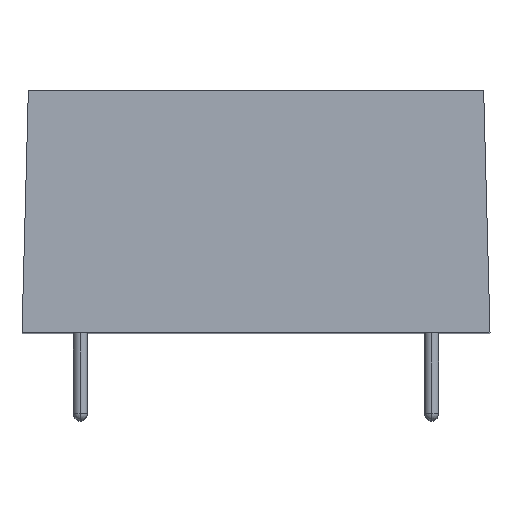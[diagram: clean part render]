
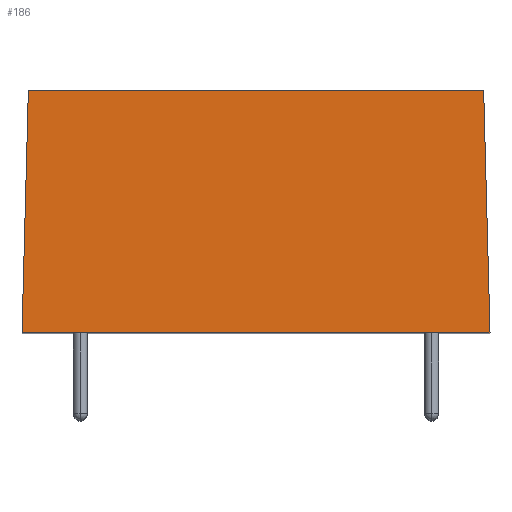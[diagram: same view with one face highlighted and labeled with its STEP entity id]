
A CAD part, top view. The second image highlights one B-rep face of the part: STEP entity #186.
In plain terms, the highlighted planar face has unit normal (0, 0.026, 1).
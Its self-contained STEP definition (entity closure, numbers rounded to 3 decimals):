
#36 = ORIENTED_EDGE ( 'NONE', *, *, #893, .T. ) ;
#105 = CARTESIAN_POINT ( 'NONE',  ( -10.15, 0., 15.9 ) ) ;
#114 = LINE ( 'NONE', #1162, #1071 ) ;
#117 = ORIENTED_EDGE ( 'NONE', *, *, #846, .T. ) ;
#173 = EDGE_CURVE ( 'NONE', #1235, #919, #114, .T. ) ;
#186 = ADVANCED_FACE ( 'NONE', ( #622 ), #282, .T. ) ;
#191 = DIRECTION ( 'NONE',  ( 1., 0., 0. ) ) ;
#257 = VERTEX_POINT ( 'NONE', #275 ) ;
#258 = DIRECTION ( 'NONE',  ( -0.026, -0.999, 0.026 ) ) ;
#270 = CARTESIAN_POINT ( 'NONE',  ( -10.15, 0., 15.9 ) ) ;
#275 = CARTESIAN_POINT ( 'NONE',  ( -10.15, 0., 15.9 ) ) ;
#282 = PLANE ( 'NONE',  #426 ) ;
#296 = EDGE_CURVE ( 'NONE', #919, #860, #720, .T. ) ;
#355 = DIRECTION ( 'NONE',  ( 1., 0., 0. ) ) ;
#426 = AXIS2_PLACEMENT_3D ( 'NONE', #105, #670, #753 ) ;
#457 = CARTESIAN_POINT ( 'NONE',  ( -10.15, 0., 15.9 ) ) ;
#492 = VECTOR ( 'NONE', #355, 1000. ) ;
#499 = VECTOR ( 'NONE', #509, 1000. ) ;
#503 = CARTESIAN_POINT ( 'NONE',  ( 10.128, 0.832, 15.878 ) ) ;
#509 = DIRECTION ( 'NONE',  ( 0.026, -0.999, 0.026 ) ) ;
#622 = FACE_OUTER_BOUND ( 'NONE', #1054, .T. ) ;
#670 = DIRECTION ( 'NONE',  ( 0., 0.026, 1. ) ) ;
#699 = LINE ( 'NONE', #270, #492 ) ;
#720 = LINE ( 'NONE', #503, #499 ) ;
#725 = VECTOR ( 'NONE', #258, 1000. ) ;
#753 = DIRECTION ( 'NONE',  ( 0., -1., 0.026 ) ) ;
#846 = EDGE_CURVE ( 'NONE', #1235, #257, #990, .T. ) ;
#853 = CARTESIAN_POINT ( 'NONE',  ( 9.875, 10.5, 15.625 ) ) ;
#860 = VERTEX_POINT ( 'NONE', #1127 ) ;
#867 = ORIENTED_EDGE ( 'NONE', *, *, #296, .F. ) ;
#893 = EDGE_CURVE ( 'NONE', #257, #860, #699, .T. ) ;
#919 = VERTEX_POINT ( 'NONE', #853 ) ;
#990 = LINE ( 'NONE', #457, #725 ) ;
#1014 = CARTESIAN_POINT ( 'NONE',  ( -9.875, 10.5, 15.625 ) ) ;
#1054 = EDGE_LOOP ( 'NONE', ( #36, #867, #1186, #117 ) ) ;
#1071 = VECTOR ( 'NONE', #191, 1000. ) ;
#1127 = CARTESIAN_POINT ( 'NONE',  ( 10.15, 0., 15.9 ) ) ;
#1162 = CARTESIAN_POINT ( 'NONE',  ( -10.15, 10.5, 15.625 ) ) ;
#1186 = ORIENTED_EDGE ( 'NONE', *, *, #173, .F. ) ;
#1235 = VERTEX_POINT ( 'NONE', #1014 ) ;
